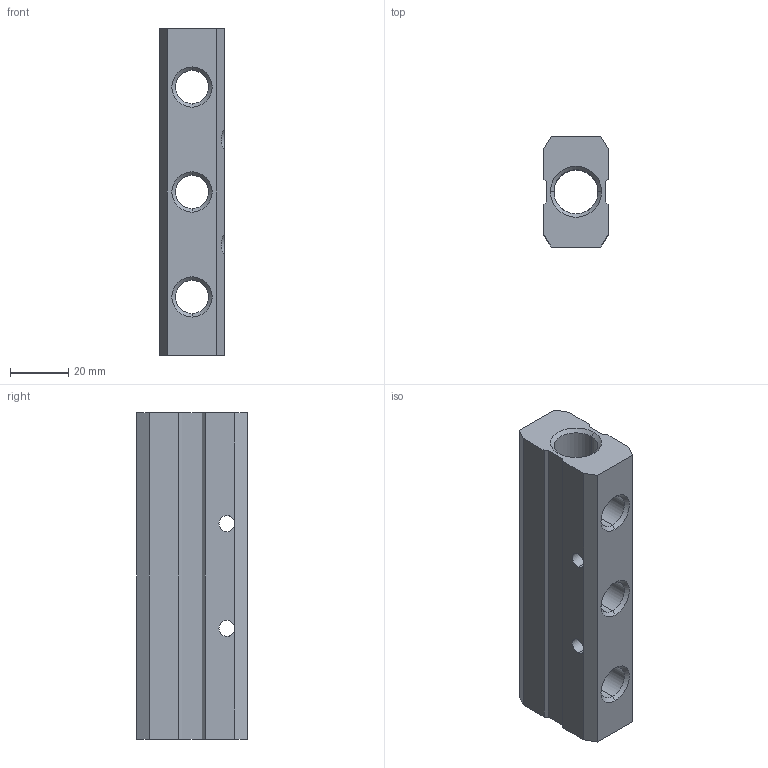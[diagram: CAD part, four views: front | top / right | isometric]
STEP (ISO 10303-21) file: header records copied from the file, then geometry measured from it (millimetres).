
FILE_DESCRIPTION (( 'STEP AP214' ), '1' );
FILE_NAME ('060480011BD00A.step', '2018-11-16T13:48:13', ( 'AIGNEP' ), ( 'Hewlett-Packard Company' ), 'SwSTEP 2.0', 'SolidWorks 2016', '' );
FILE_SCHEMA (( 'AUTOMOTIVE_DESIGN' ));
Length unit declared in the file: millimetre
Products named in the file (1): 060480011BD00A
Bounding box: 22 x 38 x 112 mm (x, y, z)
Volume: 60342.6 mm3; surface area: 21352.9 mm2
Topology: 1 solids, 1 shells, 64 faces, 170 edges, 108 vertices
Faces by surface type: cylinder 26, plane 22, cone 16
Entity records: 2736 total; most frequent: CARTESIAN_POINT 883, DIRECTION 344, ORIENTED_EDGE 340, EDGE_CURVE 170, AXIS2_PLACEMENT_3D 125, VERTEX_POINT 108, LINE 94, VECTOR 94
